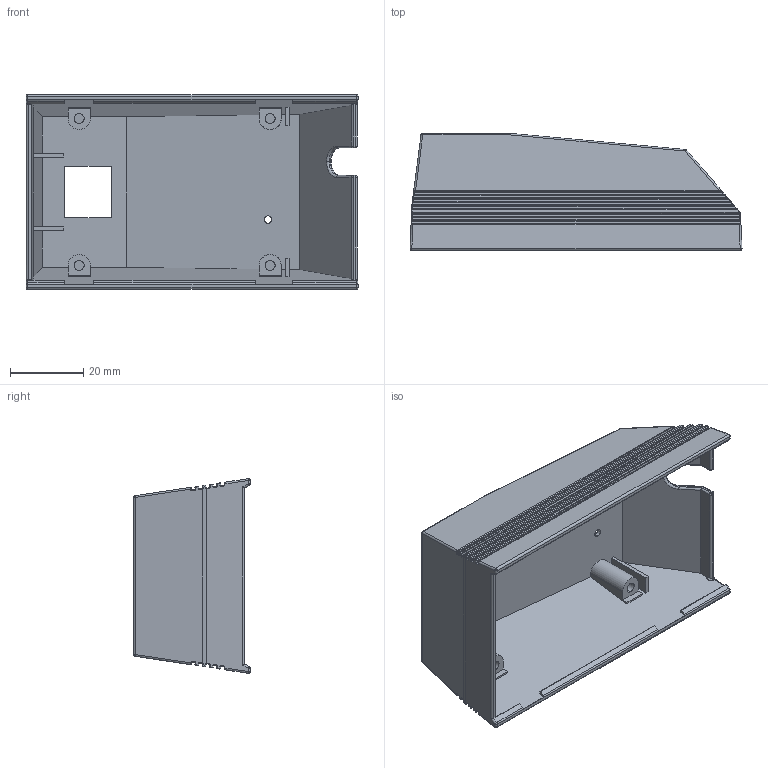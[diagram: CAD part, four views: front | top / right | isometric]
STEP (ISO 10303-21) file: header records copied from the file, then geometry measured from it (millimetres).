
FILE_DESCRIPTION (( 'STEP AP203' ), '1' );
FILE_NAME ('npdv.STEP', '2019-10-07T20:04:32', ( '' ), ( '' ), 'SwSTEP 2.0', 'SolidWorks 2016', '' );
FILE_SCHEMA (( 'CONFIG_CONTROL_DESIGN' ));
Length unit declared in the file: millimetre
Products named in the file (1): npdv
Bounding box: 90.4 x 31.84 x 53.04 mm (x, y, z)
Volume: 14951.2 mm3; surface area: 23933.5 mm2
Topology: 1 solids, 1 shells, 505 faces, 1220 edges, 701 vertices
Faces by surface type: cylinder 208, bspline 163, plane 134
Entity records: 17351 total; most frequent: CARTESIAN_POINT 6574, ORIENTED_EDGE 2402, DIRECTION 2037, EDGE_CURVE 1201, AXIS2_PLACEMENT_3D 724, VERTEX_POINT 702, VECTOR 589, LINE 589
